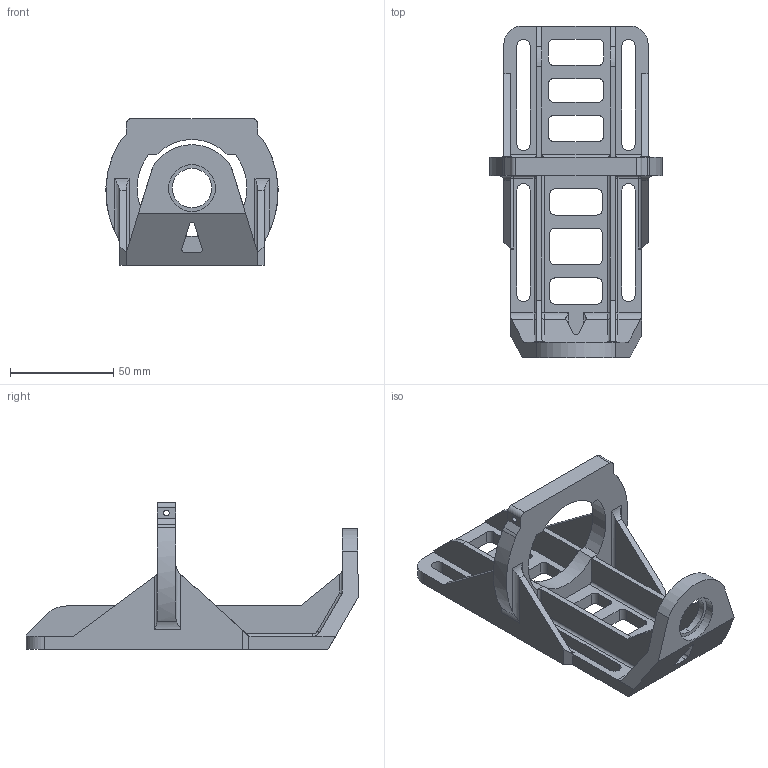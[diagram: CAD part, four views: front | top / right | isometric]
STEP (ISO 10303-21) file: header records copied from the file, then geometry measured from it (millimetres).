
FILE_DESCRIPTION (( 'STEP AP203' ), '1' );
FILE_NAME ('dremmel housing.STEP', '2017-10-24T20:03:46', ( '' ), ( '' ), 'SwSTEP 2.0', 'SolidWorks 2016', '' );
FILE_SCHEMA (( 'CONFIG_CONTROL_DESIGN' ));
Length unit declared in the file: inch
Products named in the file (1): dremmel housing
Bounding box: 83.33 x 160.64 x 71.12 mm (x, y, z)
Volume: 102275.3 mm3; surface area: 48541.4 mm2
Topology: 1 solids, 1 shells, 213 faces, 599 edges, 382 vertices
Faces by surface type: cylinder 103, plane 102, sphere 4, torus 4
Entity records: 7047 total; most frequent: CARTESIAN_POINT 1461, ORIENTED_EDGE 1190, DIRECTION 1123, EDGE_CURVE 595, VECTOR 383, LINE 383, VERTEX_POINT 382, AXIS2_PLACEMENT_3D 370
